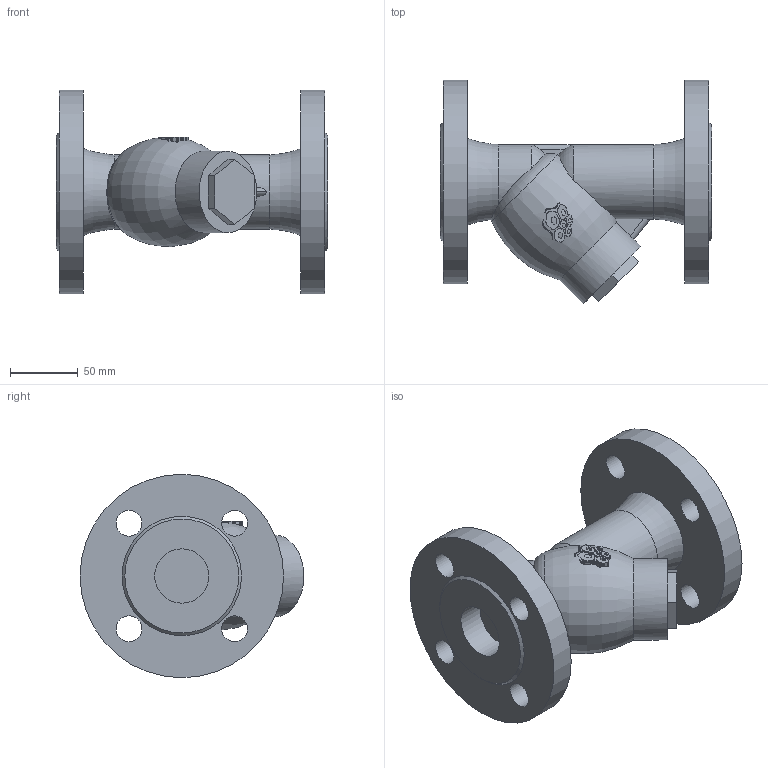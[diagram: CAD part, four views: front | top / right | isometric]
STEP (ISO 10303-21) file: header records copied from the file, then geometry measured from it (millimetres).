
FILE_DESCRIPTION(('STEP AP203'), '1');
FILE_NAME('3D_600_601-040-16_1_1', '', ('UNSPECIFIED'), ('UNSPECIFIED'), 'C3D Converter', 'C3D Toolkit', '');
FILE_SCHEMA(('CONFIG_CONTROL_DESIGN'));
Length unit declared in the file: millimetre
Bounding box: 200 x 165 x 150 mm (x, y, z)
Volume: 1237914.9 mm3; surface area: 135031.6 mm2
Topology: 1 solids, 1 shells, 876 faces, 2571 edges, 1718 vertices
Faces by surface type: plane 841, cylinder 19, torus 14, cone 2
Full cylindrical faces by diameter (mm): 19 x8, 40 x2, 55 x1, 60 x1, 150 x2
Entity records: 38681 total; most frequent: CARTESIAN_POINT 9977, ORIENTED_EDGE 5106, DIRECTION 3524, EDGE_CURVE 2553, VERTEX_POINT 1718, LINE 1654, VECTOR 1654, AXIS2_PLACEMENT_3D 935
